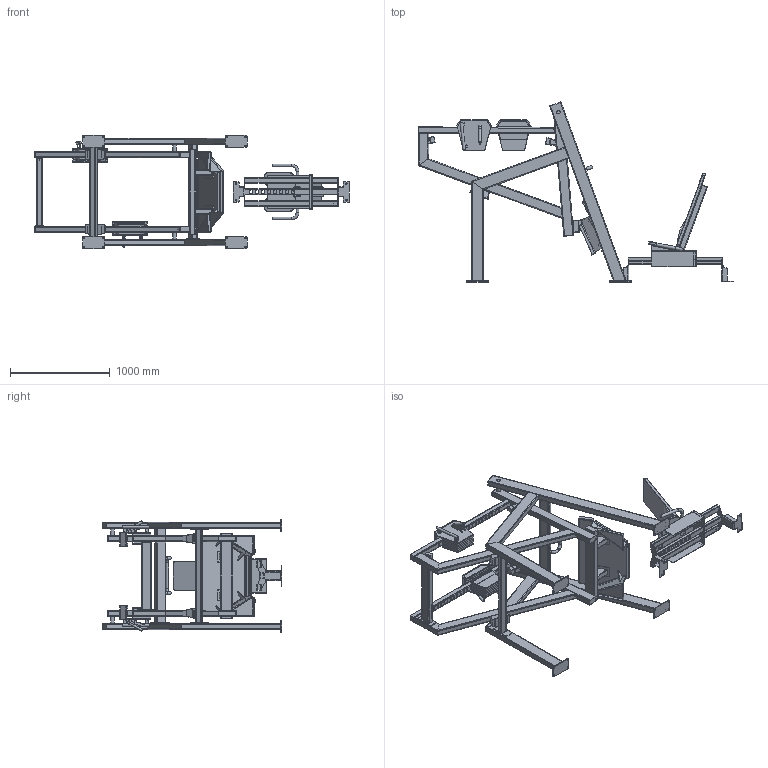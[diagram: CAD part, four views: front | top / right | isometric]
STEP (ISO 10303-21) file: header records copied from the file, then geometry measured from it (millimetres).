
FILE_DESCRIPTION(/* description */ (''),/* implementation_level */ '2;1');
FILE_NAME(/* name */ 'OG14_Rev8_3Ddwg_Low.step',/* time_stamp */ '2025-11-11T15:57:16+02:00',/* author */ (''),/* organization */ (''),/* preprocessor_version */ 'ST-DEVELOPER v20.1',/* originating_system */ 'Autodesk Translation Framework v14.21.0.0',/* authorisation */ '');
FILE_SCHEMA (('AUTOMOTIVE_DESIGN { 1 0 10303 214 3 1 1 }'));
Products named in the file (1): OG14_Rev8_3Ddwg_Low
Bounding box: 3157.21 x 1803.76 x 1136 mm (x, y, z)
Volume: 61946196.3 mm3; surface area: 20106431.3 mm2
Topology: 118 solids, 118 shells, 2805 faces, 7170 edges, 4579 vertices
Faces by surface type: plane 1467, cylinder 1071, bspline 183, torus 32, cone 28, sphere 24
Full cylindrical faces by diameter (mm): 5 x3, 6 x3, 6.8 x24, 7 x1, 8.153 x16, 8.5 x20, 10.124 x16, 12 x2, 13 x32, 14 x16, 15 x20, 16.165 x12, 18 x12, 22 x2, 25 x6, 27.8 x1, 27.98 x1, 28 x7, 32 x1, 35 x2
Entity records: 103976 total; most frequent: CARTESIAN_POINT 35796, ORIENTED_EDGE 14288, DIRECTION 13679, EDGE_CURVE 7144, LINE 4601, VECTOR 4601, VERTEX_POINT 4579, AXIS2_PLACEMENT_3D 4539
